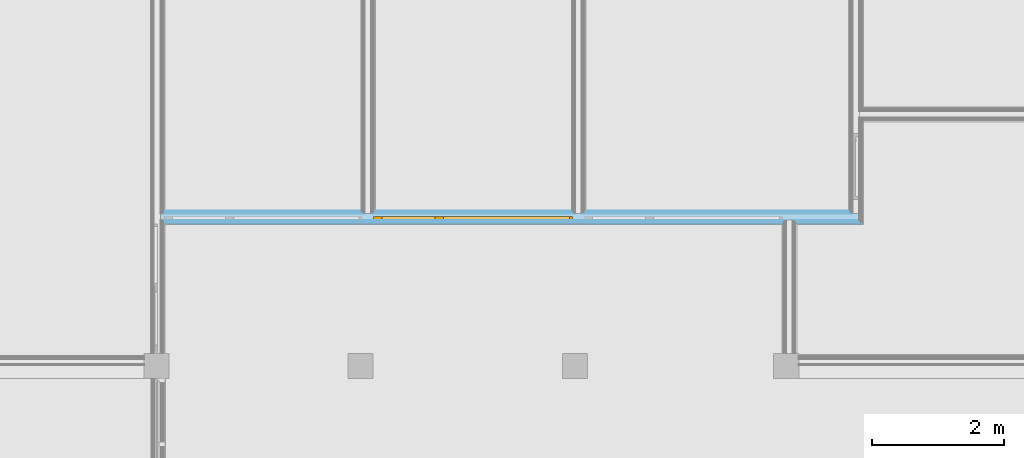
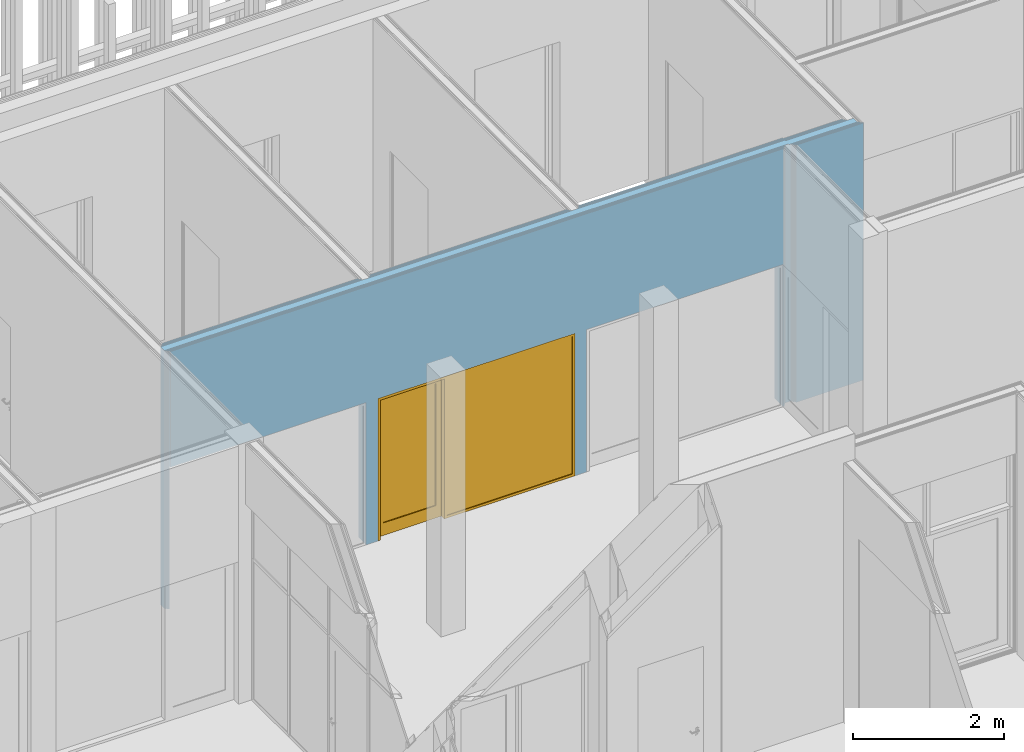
# One storey, part 217 of 260: 1 door, 3 openings, 1 element without a shape of its own, plus 9 elements that do not belong to this part.
"""IFC2X3 building model written with IfcOpenShell, lengths in millimetres."""

from ifc_helpers import new_model, entity, si_unit, converted_unit, derived_unit, money_unit, direction, frame, origin_with_axes, place, context, subcontext, project, spatial, open_shell, faceted_brep, surface_model, material, type_object, element, fill, aggregate, save


model = new_model("IFC2X3")

# Units and contexts
model_context = context("Model", 3, precision=0.01, world=origin_with_axes(), true_north=direction((0.0, 1.0)))
body_context = subcontext(model_context, "Body", "Model", "MODEL_VIEW")
ifc_project = project(units=[si_unit("LENGTHUNIT", "METRE", prefix="MILLI"), si_unit("AREAUNIT", "SQUARE_METRE"), si_unit("VOLUMEUNIT", "CUBIC_METRE"), converted_unit("PLANEANGLEUNIT", "DEGREE", entity("IfcPlaneAngleMeasure", 0.0174532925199), si_unit("PLANEANGLEUNIT", "RADIAN"), dimensions=[0, 0, 0, 0, 0, 0, 0]), money_unit("EUR"), converted_unit("TIMEUNIT", "Year", entity("IfcTimeMeasure", 31556926.0), si_unit("TIMEUNIT", "SECOND"), dimensions=[0, 0, 1, 0, 0, 0, 0]), si_unit("MASSUNIT", "GRAM", prefix="KILO"), si_unit("THERMODYNAMICTEMPERATUREUNIT", "DEGREE_CELSIUS"), si_unit("LUMINOUSINTENSITYUNIT", "LUMEN"), si_unit("ENERGYUNIT", "JOULE", prefix="MEGA"), derived_unit("THERMALCONDUCTANCEUNIT", [(si_unit("POWERUNIT", "WATT"), 1), (si_unit("LENGTHUNIT", "METRE"), -1), (si_unit("THERMODYNAMICTEMPERATUREUNIT", "KELVIN"), -1)]), derived_unit("SPECIFICHEATCAPACITYUNIT", [(si_unit("ENERGYUNIT", "JOULE"), 1), (si_unit("MASSUNIT", "GRAM", prefix="KILO"), -1), (si_unit("THERMODYNAMICTEMPERATUREUNIT", "KELVIN"), -1)]), derived_unit("MASSDENSITYUNIT", [(si_unit("MASSUNIT", "GRAM", prefix="KILO"), 1), (si_unit("VOLUMEUNIT", "CUBIC_METRE"), -1)])], contexts=[model_context])

# Site, building, storey
site_placement = place(None, origin_with_axes())
site = spatial("IfcSite", under=ifc_project, at=site_placement, Name="Kolde pst 67a", CompositionType="ELEMENT")
building_placement = place(site_placement, origin_with_axes())
building = spatial("IfcBuilding", under=site, at=building_placement, Name="Riigigümnaasium", CompositionType="ELEMENT")
storey_placement = place(building_placement, origin_with_axes())
storey = spatial("IfcBuildingStorey", under=building, at=storey_placement, Name="1. korrus", CompositionType="ELEMENT", Elevation=0.0)

# Door
door_style = type_object("IfcDoorStyle", Name="Door with Sidelight on Side 2 25", ConstructionType="NOTDEFINED", OperationType="SINGLE_SWING_LEFT", ParameterTakesPrecedence=False, Sizeable=False)
wall_placement = place(storey_placement, frame((66950.0301551, 30929.9996719, 0.0), z_axis=(0.0, 0.0, 1.0), x_axis=(1.0, 0.0, 0.0)))
opening_2_placement = place(wall_placement, frame((4894.50544559, 0.0, 0.0), z_axis=(0.0, 0.0, 1.0), x_axis=(1.0, 0.0, 0.0)))
door_placement = place(opening_2_placement, frame((-1505.46392935, 0.0, 0.0), z_axis=(0.0, 0.0, 1.0), x_axis=(1.0, 0.0, 0.0)))
door = element("IfcDoor", 1, at=door_placement, inside=storey, type_object=door_style, Name="Siseuks", ObjectType="DOOR", OverallHeight=2300.0, OverallWidth=3010.93, context=body_context, shape_type="SurfaceModel", body=[
    faceted_brep([(3010.92785869, 115.0, 0.0), (3010.92785869, 0.0, 0.0), (2970.92785869, 0.0, 0.0), (2970.92785869, 115.0, 0.0), (3010.92785869, 115.0, 2260.0), (3010.92785869, 0.0, 2260.0), (2970.92785869, 0.0, 2260.0), (2970.92785869, 0.0, 40.0), (2970.92785869, 115.0, 40.0), (2970.92785869, 115.0, 2260.0)], [[[0, 1, 2, 3]], [[4, 5, 1, 0]], [[1, 5, 6, 7, 2]], [[3, 2, 7, 8]], [[0, 3, 8, 9, 4]], [[9, 6, 5, 4]], [[8, 7, 6, 9]]]),
    faceted_brep([(1016.0, 75.0, 0.0), (1016.0, 0.0, 0.0), (1016.0, 0.0, 2260.0), (1016.0, 75.0, 2260.0), (1028.0, 75.0, 0.0), (1028.0, 115.0, 0.0), (1056.0, 115.0, 0.0), (1056.0, 0.0, 0.0), (1056.0, 0.0, 40.0), (1056.0, 0.0, 2260.0), (1028.0, 75.0, 2260.0), (1056.0, 115.0, 2260.0), (1028.0, 115.0, 2260.0), (1056.0, 115.0, 40.0)], [[[0, 1, 2, 3]], [[4, 5, 6, 7, 1, 0]], [[7, 8, 9, 2, 1]], [[10, 3, 2, 9, 11, 12]], [[10, 4, 0, 3]], [[12, 5, 4, 10]], [[12, 11, 13, 6, 5]], [[6, 13, 8, 7]], [[13, 11, 9, 8]]]),
    faceted_brep([(2970.92785869, 115.0, 40.0), (2970.92785869, 0.0, 40.0), (2970.92785869, 0.0, 0.0), (2970.92785869, 115.0, 0.0), (1056.0, 115.0, 40.0), (1056.0, 0.0, 40.0), (1056.0, 0.0, 0.0), (1056.0, 115.0, 0.0)], [[[0, 1, 2, 3]], [[4, 5, 1, 0]], [[1, 5, 6, 2]], [[3, 2, 6, 7]], [[0, 3, 7, 4]], [[7, 6, 5, 4]]]),
    faceted_brep([(28.0, 75.0, 2260.0), (28.0, 115.0, 2260.0), (0.0, 115.0, 2260.0), (0.0, 0.0, 2260.0), (40.0, 0.0, 2260.0), (40.0, 75.0, 2260.0), (28.0, 75.0, 0.0), (28.0, 115.0, 0.0), (0.0, 115.0, 0.0), (0.0, 0.0, 0.0), (40.0, 0.0, 0.0), (40.0, 75.0, 0.0)], [[[0, 1, 2, 3, 4, 5]], [[0, 6, 7, 1]], [[7, 8, 2, 1]], [[2, 8, 9, 3]], [[3, 9, 10, 4]], [[5, 4, 10, 11]], [[5, 11, 6, 0]], [[6, 11, 10, 9, 8, 7]]]),
    faceted_brep([(1028.0, 115.0, 2272.0), (28.0, 115.0, 2272.0), (28.0, 115.0, 2260.0), (0.0, 115.0, 2260.0), (0.0, 115.0, 2300.0), (3010.92785869, 115.0, 2300.0), (3010.92785869, 115.0, 2260.0), (2970.92785869, 115.0, 2260.0), (1056.0, 115.0, 2260.0), (1028.0, 115.0, 2260.0), (1028.0, 75.0, 2272.0), (28.0, 75.0, 2272.0), (28.0, 75.0, 2260.0), (40.0, 75.0, 2260.0), (40.0, 0.0, 2260.0), (0.0, 0.0, 2260.0), (0.0, 0.0, 2300.0), (3010.92785869, 0.0, 2300.0), (3010.92785869, 0.0, 2260.0), (2970.92785869, 0.0, 2260.0), (1056.0, 0.0, 2260.0), (1028.0, 75.0, 2260.0), (1016.0, 0.0, 2260.0)], [[[0, 1, 2, 3, 4, 5, 6, 7, 8, 9]], [[0, 10, 11, 1]], [[1, 11, 12, 2]], [[12, 13, 14, 15, 3, 2]], [[4, 3, 15, 16]], [[5, 4, 16, 17]], [[6, 5, 17, 18]], [[7, 6, 18, 19]], [[8, 7, 19, 20]], [[21, 9, 8, 20, 22, 14, 13]], [[9, 21, 10, 0]], [[12, 11, 10, 21, 13]], [[14, 22, 20, 19, 18, 17, 16, 15]]]),
    faceted_brep([(28.0, 115.0, 200.0), (128.0, 115.0, 200.0), (128.0, 75.0, 200.0), (28.0, 75.0, 200.0), (28.0, 115.0, 2172.0), (128.0, 115.0, 2172.0), (128.0, 75.0, 2172.0), (28.0, 75.0, 2172.0)], [[[0, 1, 2, 3]], [[0, 4, 5, 1]], [[1, 5, 6, 2]], [[3, 2, 6, 7]], [[4, 0, 3, 7]], [[5, 4, 7, 6]]]),
    faceted_brep([(1028.0, 115.0, 200.0), (1028.0, 115.0, 2172.0), (1028.0, 75.0, 2172.0), (1028.0, 75.0, 200.0), (928.0, 115.0, 200.0), (928.0, 115.0, 2172.0), (928.0, 75.0, 2172.0), (928.0, 75.0, 200.0)], [[[0, 1, 2, 3]], [[0, 4, 5, 1]], [[1, 5, 6, 2]], [[3, 2, 6, 7]], [[4, 0, 3, 7]], [[5, 4, 7, 6]]]),
    faceted_brep([(28.0, 115.0, 0.0), (1028.0, 115.0, 0.0), (1028.0, 75.0, 0.0), (28.0, 75.0, 0.0), (28.0, 115.0, 200.0), (128.0, 115.0, 200.0), (928.0, 115.0, 200.0), (1028.0, 115.0, 200.0), (1028.0, 75.0, 200.0), (928.0, 75.0, 200.0), (128.0, 75.0, 200.0), (28.0, 75.0, 200.0)], [[[0, 1, 2, 3]], [[0, 4, 5, 6, 7, 1]], [[1, 7, 8, 2]], [[3, 2, 8, 9, 10, 11]], [[4, 0, 3, 11]], [[5, 4, 11, 10]], [[6, 5, 10, 9]], [[7, 6, 9, 8]]]),
    faceted_brep([(28.0, 115.0, 2272.0), (28.0, 115.0, 2172.0), (28.0, 75.0, 2172.0), (28.0, 75.0, 2272.0), (1028.0, 115.0, 2272.0), (1028.0, 115.0, 2172.0), (928.0, 115.0, 2172.0), (128.0, 115.0, 2172.0), (128.0, 75.0, 2172.0), (928.0, 75.0, 2172.0), (1028.0, 75.0, 2172.0), (1028.0, 75.0, 2272.0)], [[[0, 1, 2, 3]], [[0, 4, 5, 6, 7, 1]], [[1, 7, 8, 2]], [[3, 2, 8, 9, 10, 11]], [[4, 0, 3, 11]], [[5, 4, 11, 10]], [[6, 5, 10, 9]], [[7, 6, 9, 8]]]),
    surface_model("IfcShellBasedSurfaceModel", [(128.0, 101.0, 200.0), (128.0, 101.0, 2172.0), (928.0, 101.0, 2172.0), (928.0, 101.0, 200.0)], [open_shell([[[0, 1, 2, 3]]])]),
    surface_model("IfcShellBasedSurfaceModel", [(128.0, 89.0, 200.0), (928.0, 89.0, 200.0), (928.0, 89.0, 2172.0), (128.0, 89.0, 2172.0)], [open_shell([[[0, 1, 2, 3]]])]),
    surface_model("IfcShellBasedSurfaceModel", [(2970.92785869, 24.0, 40.0), (1056.0, 24.0, 40.0), (1056.0, 24.0, 2260.0), (2970.92785869, 24.0, 2260.0)], [open_shell([[[0, 1, 2, 3]]])]),
    surface_model("IfcShellBasedSurfaceModel", [(2970.92785869, 12.0, 40.0), (2970.92785869, 12.0, 2260.0), (1056.0, 12.0, 2260.0), (1056.0, 12.0, 40.0)], [open_shell([[[0, 1, 2, 3]]])]),
])

# Wall, openings
wall_type = type_object("IfcWallType", Name="SS-PK-10/1_vill100+2dold 220", PredefinedType="NOTDEFINED")
wall = element("IfcWall", 2, at=wall_placement, inside=storey, type_object=wall_type, Name="Sisesein")
opening_1_placement = place(wall_placement, frame((8079.97064144, 0.0, 0.0), z_axis=(0.0, 0.0, 1.0), x_axis=(1.0, 0.0, 0.0)))
element("IfcOpeningElement", 3, at=opening_1_placement, cuts=wall, Name="Siseuks", context=body_context, shape_type="Brep", body=[
    faceted_brep([(-1500.0012665, -440.0, 0.0), (-1500.0012665, -440.0, 2300.0), (-1500.0012665, 220.0, 2300.0), (-1500.0012665, 220.0, 0.0), (1500.0012665, -440.0, 0.0), (1500.0012665, -440.0, 2300.0), (1500.0012665, 220.0, 2300.0), (1500.0012665, 220.0, 0.0)], [[[0, 1, 2, 3]], [[0, 4, 5, 1]], [[1, 5, 6, 2]], [[3, 2, 6, 7]], [[4, 0, 3, 7]], [[5, 4, 7, 6]]]),
])
opening_2 = element("IfcOpeningElement", 4, at=opening_2_placement, cuts=wall, Name="Siseuks", context=body_context, shape_type="Brep", body=[
    faceted_brep([(-1505.46392935, -440.0, 0.0), (-1505.46392935, -440.0, 2300.0), (-1505.46392935, 220.0, 2300.0), (-1505.46392935, 220.0, 0.0), (1505.46392935, -440.0, 0.0), (1505.46392935, -440.0, 2300.0), (1505.46392935, 220.0, 2300.0), (1505.46392935, 220.0, 0.0)], [[[0, 1, 2, 3]], [[0, 4, 5, 1]], [[1, 5, 6, 2]], [[3, 2, 6, 7]], [[4, 0, 3, 7]], [[5, 4, 7, 6]]]),
])

fill(opening_2, door)

# Opening
opening_3_placement = place(wall_placement, frame((1712.0911448, 0.0, 0.0), z_axis=(0.0, 0.0, 1.0), x_axis=(1.0, 0.0, 0.0)))
element("IfcOpeningElement", 5, at=opening_3_placement, cuts=wall, Name="Siseuks", context=body_context, shape_type="Brep", body=[
    faceted_brep([(-1498.09113464, -440.0, 0.0), (-1498.09113464, -440.0, 2300.0), (-1498.09113464, 220.0, 2300.0), (-1498.09113464, 220.0, 0.0), (1498.09113464, -440.0, 0.0), (1498.09113464, -440.0, 2300.0), (1498.09113464, 220.0, 2300.0), (1498.09113464, 220.0, 0.0)], [[[0, 1, 2, 3]], [[0, 4, 5, 1]], [[1, 5, 6, 2]], [[3, 2, 6, 7]], [[4, 0, 3, 7]], [[5, 4, 7, 6]]]),
])

# Building element part
ifc_material_1 = material(Name="_VIIMISTLUSKIHT - Dold plaat vastavalt SA osale")
building_element_part_1_placement = place(wall_placement, origin_with_axes())
building_element_part_1 = element("IfcBuildingElementPart", 6, at=building_element_part_1_placement, material=ifc_material_1, Name="_VIIMISTLUSKIHT - Dold plaat vastavalt SA osale", context=body_context, shape_type="Brep", body=[
    faceted_brep([(3210.18227943, 200.0, 2300.0), (3210.18227943, 220.0, 2300.0), (3210.18227943, 220.0, 4170.0), (3210.18227943, 200.0, 4170.0), (220.0, 220.0, 2300.0), (220.0, 200.0, 2300.0), (220.0, 220.0, 4170.0), (220.0, 200.0, 4170.0)], [[[0, 1, 2, 3]], [[4, 1, 0, 5]], [[1, 4, 6, 2]], [[2, 6, 7, 3]], [[5, 0, 3, 7]], [[4, 5, 7, 6]]]),
    faceted_brep([(6399.96937494, 200.0, 2300.0), (6399.96937494, 220.0, 2300.0), (6399.96937494, 220.0, 4170.0), (6399.96937494, 200.0, 4170.0), (3390.18227943, 220.0, 2300.0), (3390.18227943, 200.0, 2300.0), (3390.18227943, 220.0, 4170.0), (3390.18227943, 200.0, 4170.0)], [[[0, 1, 2, 3]], [[4, 1, 0, 5]], [[1, 4, 6, 2]], [[2, 6, 7, 3]], [[5, 0, 3, 7]], [[4, 5, 7, 6]]]),
    faceted_brep([(9579.97190795, 220.0, 2300.0), (6579.96937494, 220.0, 2300.0), (6579.96937494, 220.0, 4170.0), (9699.97190795, 220.0, 4170.0), (9699.97190795, 220.0, 4156.9), (10609.9611433, 220.0, 4156.9), (10609.9611433, 220.0, 0.0), (9579.97190795, 220.0, 0.0), (9579.97190795, 200.0, 2300.0), (6579.96937494, 200.0, 2300.0), (6579.96937494, 200.0, 4170.0), (9699.97190795, 200.0, 4170.0), (9699.97190795, 200.0, 4156.9), (10609.9611433, 200.0, 4156.9), (10609.9611433, 200.0, 0.0), (9579.97190795, 200.0, 0.0)], [[[0, 1, 2, 3, 4, 5, 6, 7]], [[1, 0, 8, 9]], [[1, 9, 10, 2]], [[3, 2, 10, 11]], [[3, 11, 12, 4]], [[5, 4, 12, 13]], [[13, 14, 6, 5]], [[15, 7, 6, 14]], [[0, 7, 15, 8]], [[8, 15, 14, 13, 12, 11, 10, 9]]]),
])

ifc_material_2 = material(Name="_KARKASS - eriprofiilkinnitus vastavalt sisemisele plaatviimistlusele")
building_element_part_2_placement = place(wall_placement, origin_with_axes())
building_element_part_2 = element("IfcBuildingElementPart", 7, at=building_element_part_2_placement, material=ifc_material_2, Name="_KARKASS - eriprofiilkinnitus vastavalt sisemisele plaatviimistlusele", context=body_context, shape_type="Brep", body=[
    faceted_brep([(214.000010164, 200.0, 2300.0), (214.000010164, 200.0, 0.0), (200.0, 200.0, 0.0), (200.0, 200.0, 4170.0), (3220.18227943, 200.0, 4170.0), (3220.18227943, 200.0, 0.0), (3210.18227943, 200.0, 0.0), (3210.18227943, 200.0, 2300.0), (214.000010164, 190.0, 2300.0), (214.000010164, 190.0, 0.0), (200.0, 190.0, 0.0), (200.0, 190.0, 4170.0), (3220.18227943, 190.0, 4170.0), (3220.18227943, 190.0, 0.0), (3210.18227943, 190.0, 0.0), (3210.18227943, 190.0, 2300.0)], [[[0, 1, 2, 3, 4, 5, 6, 7]], [[1, 0, 8, 9]], [[1, 9, 10, 2]], [[3, 2, 10, 11]], [[4, 3, 11, 12]], [[12, 13, 5, 4]], [[14, 6, 5, 13]], [[7, 6, 14, 15]], [[0, 7, 15, 8]], [[15, 14, 13, 12, 11, 10, 9, 8]]]),
    faceted_brep([(3389.04151625, 200.0, 2300.0), (3389.04151625, 200.0, 0.0), (3380.18227943, 200.0, 0.0), (3380.18227943, 200.0, 4170.0), (6409.96937494, 200.0, 4170.0), (6409.96937494, 200.0, 0.0), (6399.96937494, 200.0, 0.0), (6399.96937494, 200.0, 2300.0), (3389.04151625, 190.0, 2300.0), (3389.04151625, 190.0, 0.0), (3380.18227943, 190.0, 0.0), (3380.18227943, 190.0, 4170.0), (6409.96937494, 190.0, 4170.0), (6409.96937494, 190.0, 0.0), (6399.96937494, 190.0, 0.0), (6399.96937494, 190.0, 2300.0)], [[[0, 1, 2, 3, 4, 5, 6, 7]], [[1, 0, 8, 9]], [[1, 9, 10, 2]], [[3, 2, 10, 11]], [[4, 3, 11, 12]], [[12, 13, 5, 4]], [[14, 6, 5, 13]], [[7, 6, 14, 15]], [[0, 7, 15, 8]], [[15, 14, 13, 12, 11, 10, 9, 8]]]),
    faceted_brep([(6579.96937494, 200.0, 2300.0), (6579.96937494, 200.0, 0.0), (6569.96937494, 200.0, 0.0), (6569.96937494, 200.0, 4170.0), (9699.97190795, 200.0, 4170.0), (9699.97190795, 200.0, 4156.9), (10619.9611433, 200.0, 4156.9), (10619.9611433, 200.0, 0.0), (9579.97190795, 200.0, 0.0), (9579.97190795, 200.0, 2300.0), (6579.96937494, 190.0, 2300.0), (6579.96937494, 190.0, 0.0), (6569.96937494, 190.0, 0.0), (6569.96937494, 190.0, 4170.0), (9699.97190795, 190.0, 4170.0), (9699.97190795, 190.0, 4156.9), (10619.9611433, 190.0, 4156.9), (10619.9611433, 190.0, 0.0), (9579.97190795, 190.0, 0.0), (9579.97190795, 190.0, 2300.0)], [[[0, 1, 2, 3, 4, 5, 6, 7, 8, 9]], [[1, 0, 10, 11]], [[1, 11, 12, 2]], [[3, 2, 12, 13]], [[4, 3, 13, 14]], [[4, 14, 15, 5]], [[6, 5, 15, 16]], [[16, 17, 7, 6]], [[18, 8, 7, 17]], [[9, 8, 18, 19]], [[0, 9, 19, 10]], [[19, 18, 17, 16, 15, 14, 13, 12, 11, 10]]]),
])

ifc_material_3 = material(Name="_PLAATMATERJAL - tuletõkkekipsplaat, Knauf Red GKF või samaväärne")
building_element_part_3_placement = place(wall_placement, origin_with_axes())
building_element_part_3 = element("IfcBuildingElementPart", 8, at=building_element_part_3_placement, material=ifc_material_3, Name="_PLAATMATERJAL - tuletõkkekipsplaat, Knauf Red GKF või samaväärne", context=body_context, shape_type="Brep", body=[
    faceted_brep([(214.000010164, 190.0, 2300.0), (214.000010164, 190.0, 0.0), (190.0, 190.0, 0.0), (190.0, 190.0, 4170.0), (3235.18227943, 190.0, 4170.0), (3235.18227943, 190.0, 0.0), (3210.18227943, 190.0, 0.0), (3210.18227943, 190.0, 2300.0), (214.000010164, 175.0, 2300.0), (214.000010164, 175.0, 0.0), (190.0, 175.0, 0.0), (190.0, 175.0, 4170.0), (3235.18227943, 175.0, 4170.0), (3235.18227943, 175.0, 0.0), (3210.18227943, 175.0, 0.0), (3210.18227943, 175.0, 2300.0)], [[[0, 1, 2, 3, 4, 5, 6, 7]], [[1, 0, 8, 9]], [[1, 9, 10, 2]], [[3, 2, 10, 11]], [[4, 3, 11, 12]], [[12, 13, 5, 4]], [[14, 6, 5, 13]], [[7, 6, 14, 15]], [[0, 7, 15, 8]], [[15, 14, 13, 12, 11, 10, 9, 8]]]),
    faceted_brep([(3389.04151625, 190.0, 2300.0), (3389.04151625, 190.0, 0.0), (3365.18227943, 190.0, 0.0), (3365.18227943, 190.0, 4170.0), (6424.96937494, 190.0, 4170.0), (6424.96937494, 190.0, 0.0), (6399.96937494, 190.0, 0.0), (6399.96937494, 190.0, 2300.0), (3389.04151625, 175.0, 2300.0), (3389.04151625, 175.0, 0.0), (3365.18227943, 175.0, 0.0), (3365.18227943, 175.0, 4170.0), (6424.96937494, 175.0, 4170.0), (6424.96937494, 175.0, 0.0), (6399.96937494, 175.0, 0.0), (6399.96937494, 175.0, 2300.0)], [[[0, 1, 2, 3, 4, 5, 6, 7]], [[1, 0, 8, 9]], [[1, 9, 10, 2]], [[3, 2, 10, 11]], [[4, 3, 11, 12]], [[12, 13, 5, 4]], [[14, 6, 5, 13]], [[7, 6, 14, 15]], [[0, 7, 15, 8]], [[15, 14, 13, 12, 11, 10, 9, 8]]]),
    faceted_brep([(6579.96937494, 190.0, 2300.0), (6579.96937494, 190.0, 0.0), (6554.96937494, 190.0, 0.0), (6554.96937494, 190.0, 4170.0), (9699.97190795, 190.0, 4170.0), (9699.97190795, 190.0, 4156.9), (10634.9611433, 190.0, 4156.9), (10634.9611433, 190.0, 0.0), (9579.97190795, 190.0, 0.0), (9579.97190795, 190.0, 2300.0), (6579.96937494, 175.0, 2300.0), (6579.96937494, 175.0, 0.0), (6554.96937494, 175.0, 0.0), (6554.96937494, 175.0, 4170.0), (9699.97190795, 175.0, 4170.0), (9699.97190795, 175.0, 4156.9), (10634.9611433, 175.0, 4156.9), (10634.9611433, 175.0, 0.0), (9579.97190795, 175.0, 0.0), (9579.97190795, 175.0, 2300.0)], [[[0, 1, 2, 3, 4, 5, 6, 7, 8, 9]], [[1, 0, 10, 11]], [[1, 11, 12, 2]], [[3, 2, 12, 13]], [[4, 3, 13, 14]], [[4, 14, 15, 5]], [[6, 5, 15, 16]], [[16, 17, 7, 6]], [[18, 8, 7, 17]], [[9, 8, 18, 19]], [[0, 9, 19, 10]], [[19, 18, 17, 16, 15, 14, 13, 12, 11, 10]]]),
])

building_element_part_4_placement = place(wall_placement, origin_with_axes())
building_element_part_4 = element("IfcBuildingElementPart", 9, at=building_element_part_4_placement, material=ifc_material_3, Name="_PLAATMATERJAL - tuletõkkekipsplaat, Knauf Red GKF või samaväärne", context=body_context, shape_type="Brep", body=[
    faceted_brep([(214.000010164, 175.0, 2300.0), (214.000010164, 175.0, 0.0), (175.0, 175.0, 0.0), (175.0, 175.0, 4170.0), (3250.18227943, 175.0, 4170.0), (3250.18227943, 175.0, 0.0), (3210.18227943, 175.0, 0.0), (3210.18227943, 175.0, 2300.0), (214.000010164, 160.0, 2300.0), (214.000010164, 160.0, 0.0), (175.0, 160.0, 0.0), (175.0, 160.0, 4170.0), (3250.18227943, 160.0, 4170.0), (3250.18227943, 160.0, 0.0), (3210.18227943, 160.0, 0.0), (3210.18227943, 160.0, 2300.0)], [[[0, 1, 2, 3, 4, 5, 6, 7]], [[1, 0, 8, 9]], [[1, 9, 10, 2]], [[3, 2, 10, 11]], [[4, 3, 11, 12]], [[12, 13, 5, 4]], [[14, 6, 5, 13]], [[7, 6, 14, 15]], [[0, 7, 15, 8]], [[15, 14, 13, 12, 11, 10, 9, 8]]]),
    faceted_brep([(3389.04151625, 175.0, 2300.0), (3389.04151625, 175.0, 0.0), (3350.18227943, 175.0, 0.0), (3350.18227943, 175.0, 4170.0), (6439.96937494, 175.0, 4170.0), (6439.96937494, 175.0, 0.0), (6399.96937494, 175.0, 0.0), (6399.96937494, 175.0, 2300.0), (3389.04151625, 160.0, 2300.0), (3389.04151625, 160.0, 0.0), (3350.18227943, 160.0, 0.0), (3350.18227943, 160.0, 4170.0), (6439.96937494, 160.0, 4170.0), (6439.96937494, 160.0, 0.0), (6399.96937494, 160.0, 0.0), (6399.96937494, 160.0, 2300.0)], [[[0, 1, 2, 3, 4, 5, 6, 7]], [[1, 0, 8, 9]], [[1, 9, 10, 2]], [[3, 2, 10, 11]], [[4, 3, 11, 12]], [[12, 13, 5, 4]], [[14, 6, 5, 13]], [[7, 6, 14, 15]], [[0, 7, 15, 8]], [[15, 14, 13, 12, 11, 10, 9, 8]]]),
    faceted_brep([(6579.96937494, 175.0, 2300.0), (6579.96937494, 175.0, 0.0), (6539.96937494, 175.0, 0.0), (6539.96937494, 175.0, 4170.0), (9699.97190795, 175.0, 4170.0), (9699.97190795, 175.0, 4156.9), (10649.9611433, 175.0, 4156.9), (10649.9611433, 175.0, 0.0), (9579.97190795, 175.0, 0.0), (9579.97190795, 175.0, 2300.0), (6579.96937494, 160.0, 2300.0), (6579.96937494, 160.0, 0.0), (6539.96937494, 160.0, 0.0), (6539.96937494, 160.0, 4170.0), (9699.97190795, 160.0, 4170.0), (9699.97190795, 160.0, 4156.9), (10649.9611433, 160.0, 4156.9), (10649.9611433, 160.0, 0.0), (9579.97190795, 160.0, 0.0), (9579.97190795, 160.0, 2300.0)], [[[0, 1, 2, 3, 4, 5, 6, 7, 8, 9]], [[1, 0, 10, 11]], [[1, 11, 12, 2]], [[3, 2, 12, 13]], [[4, 3, 13, 14]], [[4, 14, 15, 5]], [[6, 5, 15, 16]], [[16, 17, 7, 6]], [[18, 8, 7, 17]], [[9, 8, 18, 19]], [[0, 9, 19, 10]], [[19, 18, 17, 16, 15, 14, 13, 12, 11, 10]]]),
])

ifc_material_4 = material(Name="_KARKASS - puitpruss 100x50mm vertikaalne, samm 600mm, vahel mineraalvill, helineeldetegur αw = 1.0, ISOVER ACOUSTIC 100mm või samaväärne")
building_element_part_5_placement = place(wall_placement, origin_with_axes())
building_element_part_5 = element("IfcBuildingElementPart", 10, at=building_element_part_5_placement, material=ifc_material_4, Name="_KARKASS - puitpruss 100x50mm vertikaalne, samm 600mm, vahel mineraalvill, helineeldetegur αw = 1.0, ISOVER ACOUSTIC 100mm või samaväärne", context=body_context, shape_type="Brep", body=[
    faceted_brep([(214.000010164, 160.0, 2300.0), (214.000010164, 160.0, 0.0), (160.0, 160.0, 0.0), (160.0, 160.0, 4170.0), (9699.97190795, 160.0, 4170.0), (9699.97190795, 160.0, 4156.9), (10749.9611433, 160.0, 4156.9), (10749.9611433, 160.0, 0.0), (9579.97190795, 160.0, 0.0), (9579.97190795, 160.0, 2300.0), (6579.96937494, 160.0, 2300.0), (6579.96937494, 160.0, 0.0), (6399.96937494, 160.0, 0.0), (6399.96937494, 160.0, 2300.0), (3389.04151625, 160.0, 2300.0), (3389.04151625, 160.0, 0.0), (3210.18227943, 160.0, 0.0), (3210.18227943, 160.0, 2300.0), (214.000010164, 60.0, 2300.0), (214.000010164, 60.0, 0.0), (160.0, 60.0, 0.0), (160.0, 60.0, 4170.0), (9699.97190795, 60.0, 4170.0), (9699.97190795, 60.0, 4156.9), (10749.9611433, 60.0, 4156.9), (10749.9611433, 60.0, 0.0), (9579.97190795, 60.0, 0.0), (9579.97190795, 60.0, 2300.0), (6579.96937494, 60.0, 2300.0), (6579.96937494, 60.0, 0.0), (6399.96937494, 60.0, 0.0), (6399.96937494, 60.0, 2300.0), (3389.04151625, 60.0, 2300.0), (3389.04151625, 60.0, 0.0), (3210.18227943, 60.0, 0.0), (3210.18227943, 60.0, 2300.0)], [[[0, 1, 2, 3, 4, 5, 6, 7, 8, 9, 10, 11, 12, 13, 14, 15, 16, 17]], [[1, 0, 18, 19]], [[1, 19, 20, 2]], [[20, 21, 3, 2]], [[21, 22, 4, 3]], [[23, 5, 4, 22]], [[23, 24, 6, 5]], [[7, 6, 24, 25]], [[7, 25, 26, 8]], [[26, 27, 9, 8]], [[27, 28, 10, 9]], [[28, 29, 11, 10]], [[12, 11, 29, 30]], [[12, 30, 31, 13]], [[13, 31, 32, 14]], [[14, 32, 33, 15]], [[34, 16, 15, 33]], [[17, 16, 34, 35]], [[0, 17, 35, 18]], [[35, 34, 33, 32, 31, 30, 29, 28, 27, 26, 25, 24, 23, 22, 21, 20, 19, 18]]]),
])

building_element_part_6_placement = place(wall_placement, origin_with_axes())
building_element_part_6 = element("IfcBuildingElementPart", 11, at=building_element_part_6_placement, material=ifc_material_3, Name="_PLAATMATERJAL - tuletõkkekipsplaat, Knauf Red GKF või samaväärne", context=body_context, shape_type="Brep", body=[
    faceted_brep([(9739.97190795, 60.0, 4156.9), (10764.9611433, 60.0, 4156.9), (10764.9611433, 60.0, 0.0), (9739.97190795, 60.0, 0.0), (10764.9611433, 45.0, 4156.9), (9739.97190795, 45.0, 4156.9), (10764.9611433, 45.0, 0.0), (9739.97190795, 45.0, 0.0)], [[[0, 1, 2, 3]], [[4, 1, 0, 5]], [[1, 4, 6, 2]], [[2, 6, 7, 3]], [[5, 0, 3, 7]], [[4, 5, 7, 6]]]),
    faceted_brep([(214.000010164, 60.0, 2300.0), (214.000010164, 60.0, 0.0), (175.0, 60.0, 0.0), (175.0, 60.0, 4170.0), (9639.97190795, 60.0, 4170.0), (9639.97190795, 60.0, 0.0), (9579.97190795, 60.0, 0.0), (9579.97190795, 60.0, 2300.0), (6579.96937494, 60.0, 2300.0), (6579.96937494, 60.0, 0.0), (6399.96937494, 60.0, 0.0), (6399.96937494, 60.0, 2300.0), (3389.04151625, 60.0, 2300.0), (3389.04151625, 60.0, 0.0), (3210.18227943, 60.0, 0.0), (3210.18227943, 60.0, 2300.0), (214.000010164, 45.0, 2300.0), (214.000010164, 45.0, 0.0), (175.0, 45.0, 0.0), (175.0, 45.0, 4170.0), (9639.97190795, 45.0, 4170.0), (9639.97190795, 45.0, 0.0), (9579.97190795, 45.0, 0.0), (9579.97190795, 45.0, 2300.0), (6579.96937494, 45.0, 2300.0), (6579.96937494, 45.0, 0.0), (6399.96937494, 45.0, 0.0), (6399.96937494, 45.0, 2300.0), (3389.04151625, 45.0, 2300.0), (3389.04151625, 45.0, 0.0), (3210.18227943, 45.0, 0.0), (3210.18227943, 45.0, 2300.0)], [[[0, 1, 2, 3, 4, 5, 6, 7, 8, 9, 10, 11, 12, 13, 14, 15]], [[1, 0, 16, 17]], [[1, 17, 18, 2]], [[18, 19, 3, 2]], [[19, 20, 4, 3]], [[5, 4, 20, 21]], [[5, 21, 22, 6]], [[22, 23, 7, 6]], [[23, 24, 8, 7]], [[24, 25, 9, 8]], [[10, 9, 25, 26]], [[10, 26, 27, 11]], [[11, 27, 28, 12]], [[12, 28, 29, 13]], [[30, 14, 13, 29]], [[15, 14, 30, 31]], [[0, 15, 31, 16]], [[31, 30, 29, 28, 27, 26, 25, 24, 23, 22, 21, 20, 19, 18, 17, 16]]]),
])

building_element_part_7_placement = place(wall_placement, origin_with_axes())
building_element_part_7 = element("IfcBuildingElementPart", 12, at=building_element_part_7_placement, material=ifc_material_3, Name="_PLAATMATERJAL - tuletõkkekipsplaat, Knauf Red GKF või samaväärne", context=body_context, shape_type="Brep", body=[
    faceted_brep([(9754.97190795, 45.0, 4156.9), (10779.9611433, 45.0, 4156.9), (10779.9611433, 45.0, 0.0), (9754.97190795, 45.0, 0.0), (10779.9611433, 30.0, 4156.9), (9754.97190795, 30.0, 4156.9), (10779.9611433, 30.0, 0.0), (9754.97190795, 30.0, 0.0)], [[[0, 1, 2, 3]], [[4, 1, 0, 5]], [[1, 4, 6, 2]], [[2, 6, 7, 3]], [[5, 0, 3, 7]], [[4, 5, 7, 6]]]),
    faceted_brep([(214.000010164, 45.0, 2300.0), (214.000010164, 45.0, 0.0), (190.0, 45.0, 0.0), (190.0, 45.0, 4170.0), (9624.97190795, 45.0, 4170.0), (9624.97190795, 45.0, 0.0), (9579.97190795, 45.0, 0.0), (9579.97190795, 45.0, 2300.0), (6579.96937494, 45.0, 2300.0), (6579.96937494, 45.0, 0.0), (6399.96937494, 45.0, 0.0), (6399.96937494, 45.0, 2300.0), (3389.04151625, 45.0, 2300.0), (3389.04151625, 45.0, 0.0), (3210.18227943, 45.0, 0.0), (3210.18227943, 45.0, 2300.0), (214.000010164, 30.0, 2300.0), (214.000010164, 30.0, 0.0), (190.0, 30.0, 0.0), (190.0, 30.0, 4170.0), (9624.97190795, 30.0, 4170.0), (9624.97190795, 30.0, 0.0), (9579.97190795, 30.0, 0.0), (9579.97190795, 30.0, 2300.0), (6579.96937494, 30.0, 2300.0), (6579.96937494, 30.0, 0.0), (6399.96937494, 30.0, 0.0), (6399.96937494, 30.0, 2300.0), (3389.04151625, 30.0, 2300.0), (3389.04151625, 30.0, 0.0), (3210.18227943, 30.0, 0.0), (3210.18227943, 30.0, 2300.0)], [[[0, 1, 2, 3, 4, 5, 6, 7, 8, 9, 10, 11, 12, 13, 14, 15]], [[1, 0, 16, 17]], [[1, 17, 18, 2]], [[18, 19, 3, 2]], [[19, 20, 4, 3]], [[5, 4, 20, 21]], [[5, 21, 22, 6]], [[22, 23, 7, 6]], [[23, 24, 8, 7]], [[24, 25, 9, 8]], [[10, 9, 25, 26]], [[10, 26, 27, 11]], [[11, 27, 28, 12]], [[12, 28, 29, 13]], [[30, 14, 13, 29]], [[15, 14, 30, 31]], [[0, 15, 31, 16]], [[31, 30, 29, 28, 27, 26, 25, 24, 23, 22, 21, 20, 19, 18, 17, 16]]]),
])

building_element_part_8_placement = place(wall_placement, origin_with_axes())
building_element_part_8 = element("IfcBuildingElementPart", 13, at=building_element_part_8_placement, material=ifc_material_2, Name="_KARKASS - eriprofiilkinnitus vastavalt sisemisele plaatviimistlusele", context=body_context, shape_type="Brep", body=[
    faceted_brep([(9769.97190795, 30.0, 4156.9), (10789.9611433, 30.0, 4156.9), (10789.9611433, 30.0, 0.0), (9769.97190795, 30.0, 0.0), (10789.9611433, 20.0, 4156.9), (9769.97190795, 20.0, 4156.9), (10789.9611433, 20.0, 0.0), (9769.97190795, 20.0, 0.0)], [[[0, 1, 2, 3]], [[4, 1, 0, 5]], [[1, 4, 6, 2]], [[2, 6, 7, 3]], [[5, 0, 3, 7]], [[4, 5, 7, 6]]]),
    faceted_brep([(214.000010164, 30.0, 2300.0), (214.000010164, 30.0, 0.0), (200.0, 30.0, 0.0), (200.0, 30.0, 4170.0), (9609.97190795, 30.0, 4170.0), (9609.97190795, 30.0, 0.0), (9579.97190795, 30.0, 0.0), (9579.97190795, 30.0, 2300.0), (6579.96937494, 30.0, 2300.0), (6579.96937494, 30.0, 0.0), (6399.96937494, 30.0, 0.0), (6399.96937494, 30.0, 2300.0), (3389.04151625, 30.0, 2300.0), (3389.04151625, 30.0, 0.0), (3210.18227943, 30.0, 0.0), (3210.18227943, 30.0, 2300.0), (214.000010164, 20.0, 2300.0), (214.000010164, 20.0, 0.0), (200.0, 20.0, 0.0), (200.0, 20.0, 4170.0), (9609.97190795, 20.0, 4170.0), (9609.97190795, 20.0, 0.0), (9579.97190795, 20.0, 0.0), (9579.97190795, 20.0, 2300.0), (6579.96937494, 20.0, 2300.0), (6579.96937494, 20.0, 0.0), (6399.96937494, 20.0, 0.0), (6399.96937494, 20.0, 2300.0), (3389.04151625, 20.0, 2300.0), (3389.04151625, 20.0, 0.0), (3210.18227943, 20.0, 0.0), (3210.18227943, 20.0, 2300.0)], [[[0, 1, 2, 3, 4, 5, 6, 7, 8, 9, 10, 11, 12, 13, 14, 15]], [[1, 0, 16, 17]], [[1, 17, 18, 2]], [[18, 19, 3, 2]], [[19, 20, 4, 3]], [[5, 4, 20, 21]], [[5, 21, 22, 6]], [[22, 23, 7, 6]], [[23, 24, 8, 7]], [[24, 25, 9, 8]], [[10, 9, 25, 26]], [[10, 26, 27, 11]], [[11, 27, 28, 12]], [[12, 28, 29, 13]], [[30, 14, 13, 29]], [[15, 14, 30, 31]], [[0, 15, 31, 16]], [[31, 30, 29, 28, 27, 26, 25, 24, 23, 22, 21, 20, 19, 18, 17, 16]]]),
])

building_element_part_9_placement = place(wall_placement, origin_with_axes())
building_element_part_9 = element("IfcBuildingElementPart", 14, at=building_element_part_9_placement, material=ifc_material_1, Name="_VIIMISTLUSKIHT - Dold plaat vastavalt SA osale", context=body_context, shape_type="Brep", body=[
    faceted_brep([(9779.97190795, 20.0, 4156.9), (10809.9611433, 20.0, 4156.9), (10809.9611433, 20.0, 0.0), (9779.97190795, 20.0, 0.0), (10809.9611433, 0.0, 4156.9), (9779.97190795, 0.0, 4156.9), (10809.9611433, 0.0, 0.0), (9779.97190795, 0.0, 0.0)], [[[0, 1, 2, 3]], [[4, 1, 0, 5]], [[1, 4, 6, 2]], [[2, 6, 7, 3]], [[5, 0, 3, 7]], [[4, 5, 7, 6]]]),
    faceted_brep([(3210.18227943, 20.0, 2300.0), (220.0, 20.0, 2300.0), (220.0, 20.0, 4170.0), (9599.97190795, 20.0, 4170.0), (9599.97190795, 20.0, 0.0), (9579.97190795, 20.0, 0.0), (9579.97190795, 20.0, 2300.0), (6579.96937494, 20.0, 2300.0), (6579.96937494, 20.0, 0.0), (6399.96937494, 20.0, 0.0), (6399.96937494, 20.0, 2300.0), (3389.04151625, 20.0, 2300.0), (3389.04151625, 20.0, 0.0), (3210.18227943, 20.0, 0.0), (3210.18227943, 0.0, 2300.0), (220.0, 0.0, 2300.0), (220.0, 0.0, 4170.0), (9599.97190795, 0.0, 4170.0), (9599.97190795, 0.0, 0.0), (9579.97190795, 0.0, 0.0), (9579.97190795, 0.0, 2300.0), (6579.96937494, 0.0, 2300.0), (6579.96937494, 0.0, 0.0), (6399.96937494, 0.0, 0.0), (6399.96937494, 0.0, 2300.0), (3389.04151625, 0.0, 2300.0), (3389.04151625, 0.0, 0.0), (3210.18227943, 0.0, 0.0)], [[[0, 1, 2, 3, 4, 5, 6, 7, 8, 9, 10, 11, 12, 13]], [[1, 0, 14, 15]], [[1, 15, 16, 2]], [[16, 17, 3, 2]], [[4, 3, 17, 18]], [[4, 18, 19, 5]], [[19, 20, 6, 5]], [[20, 21, 7, 6]], [[21, 22, 8, 7]], [[9, 8, 22, 23]], [[9, 23, 24, 10]], [[10, 24, 25, 11]], [[11, 25, 26, 12]], [[27, 13, 12, 26]], [[0, 13, 27, 14]], [[14, 27, 26, 25, 24, 23, 22, 21, 20, 19, 18, 17, 16, 15]]]),
])

aggregate(wall, [building_element_part_1, building_element_part_2, building_element_part_3, building_element_part_4, building_element_part_5, building_element_part_6, building_element_part_7, building_element_part_8, building_element_part_9])

save(model, "model.ifc")
